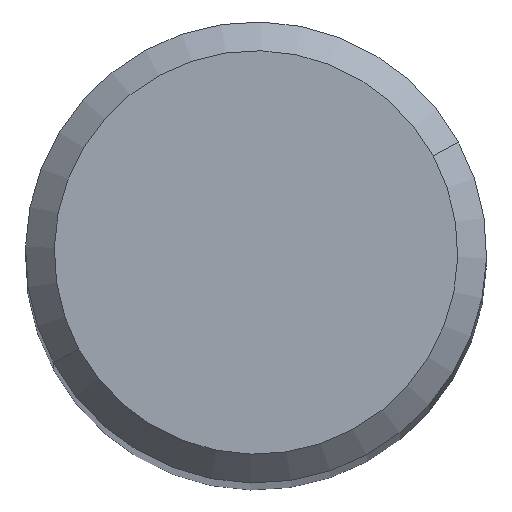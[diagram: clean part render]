
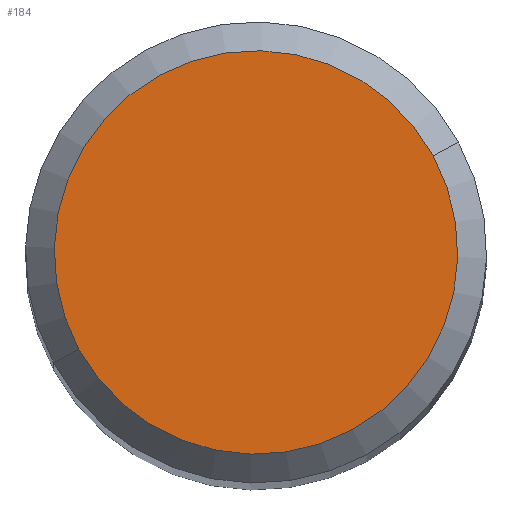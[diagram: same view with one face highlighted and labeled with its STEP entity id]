
A CAD part, top view. The second image highlights one B-rep face of the part: STEP entity #184.
In plain terms, the highlighted planar face has unit normal (0, 0, 1).
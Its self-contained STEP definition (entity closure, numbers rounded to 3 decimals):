
#39=AXIS2_PLACEMENT_3D('Circle Axis2P3D',#37,#38,$) ;
#74=AXIS2_PLACEMENT_3D('Circle Axis2P3D',#72,#73,$) ;
#178=AXIS2_PLACEMENT_3D('Plane Axis2P3D',#175,#176,#177) ;
#37=CARTESIAN_POINT('Axis2P3D Location',(0.,0.,0.)) ;
#41=CARTESIAN_POINT('Vertex',(3.072,1.678,0.)) ;
#43=CARTESIAN_POINT('Vertex',(-3.072,-1.678,0.)) ;
#72=CARTESIAN_POINT('Axis2P3D Location',(0.,0.,0.)) ;
#175=CARTESIAN_POINT('Axis2P3D Location',(0.,0.,0.)) ;
#38=DIRECTION('Axis2P3D Direction',(0.,0.,-1.)) ;
#73=DIRECTION('Axis2P3D Direction',(0.,0.,-1.)) ;
#176=DIRECTION('Axis2P3D Direction',(0.,0.,1.)) ;
#177=DIRECTION('Axis2P3D XDirection',(1.,0.,0.)) ;
#181=ORIENTED_EDGE('',*,*,#45,.T.) ;
#182=ORIENTED_EDGE('',*,*,#76,.T.) ;
#184=ADVANCED_FACE('NO_CUT',(#183),#179,.T.) ;
#40=CIRCLE('generated circle',#39,3.5) ;
#75=CIRCLE('generated circle',#74,3.5) ;
#45=EDGE_CURVE('',#42,#44,#40,.F.) ;
#76=EDGE_CURVE('',#44,#42,#75,.F.) ;
#180=EDGE_LOOP('',(#181,#182)) ;
#183=FACE_OUTER_BOUND('',#180,.T.) ;
#179=PLANE('Plane',#178) ;
#42=VERTEX_POINT('',#41) ;
#44=VERTEX_POINT('',#43) ;
